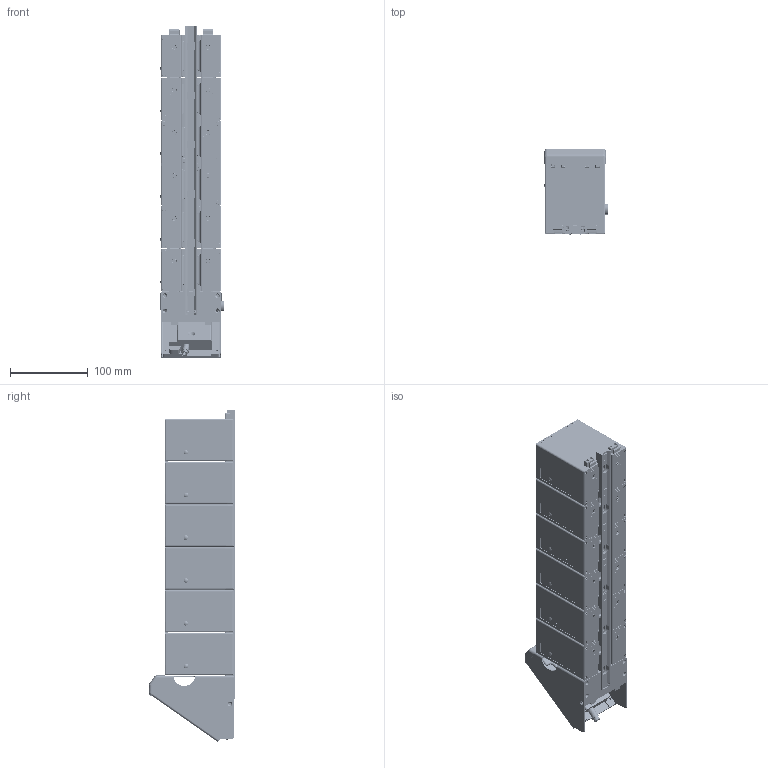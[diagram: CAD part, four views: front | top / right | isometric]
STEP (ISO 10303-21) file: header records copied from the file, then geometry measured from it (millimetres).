
FILE_DESCRIPTION (( 'STEP AP214' ), '1' );
FILE_NAME ('LGX 6X Baserunner Dock.STEP', '2025-11-04T00:39:49', ( '' ), ( '' ), 'SwSTEP 2.0', 'SolidWorks 2021', '' );
FILE_SCHEMA (( 'AUTOMOTIVE_DESIGN' ));
Length unit declared in the file: millimetre
Products named in the file (23): LGX-Encl_Extrusion Profile; LGX-BRshell R1_R2; XT60F; LGX_TLock; LGX 6X Baserunner Dock; V5BRL10_Ref; LXG Single Module_B2 Rear Locked; M3 Screw_M3x18; LGX-Base_InjectionMolded; LG10X-Top_InjectionMolding; M3 Screw_M3x5; LGX-BRSink_Rev1; LXG Single Module_B2 Locked; LGX Cell Assembly; M3 Screw_M3x12; LXG Single Module_B2 Front Locked; ST3 Plug; LGX-BRcap R0; LGX-Latch; LGX-Dock R3_Dock Only; LGX-Ovl; LGX-Rail_Rail x6; XT60M
Assembly tree (94 placements, depth 4):
  LGX 6X Baserunner Dock
    LGX-Rail_Rail x6
    LGX-Dock R3_Dock Only
    XT60F  x2
    LGX-BRshell R1_R2
    LGX-BRSink_Rev1
    V5BRL10_Ref
    LXG Single Module_B2 Front Locked
      LG10X-Top_InjectionMolding
      LGX-Encl_Extrusion Profile
      LGX-Base_InjectionMolded
      LGX Cell Assembly
        XT60F  x2
        XT60M  x2
      LGX-Latch  x2
      LGX-Ovl
      LGX_TLock  x4
      M3 Screw_M3x18  x4
      M3 Screw_M3x5  x2
      M3 Screw_M3x12  x8
    LXG Single Module_B2 Locked  x4
      LG10X-Top_InjectionMolding
      LGX-Encl_Extrusion Profile
      LGX-Base_InjectionMolded
      LGX Cell Assembly
        XT60F  x2
        XT60M  x2
      LGX-Latch
      LGX-Ovl
      LGX_TLock
      M3 Screw_M3x18
      M3 Screw_M3x5
      M3 Screw_M3x12
    LXG Single Module_B2 Rear Locked
      LG10X-Top_InjectionMolding
      LGX-Encl_Extrusion Profile
      LGX-Base_InjectionMolded
      LGX Cell Assembly
        XT60F  x2
        XT60M  x2
      LGX-Latch  x2
      LGX-Ovl
      LGX_TLock  x4
      M3 Screw_M3x18  x4
      M3 Screw_M3x5  x2
      M3 Screw_M3x12  x8
    ST3 Plug
    LGX-BRcap R0
Bounding box: 81.9 x 111.11 x 427.91 mm (x, y, z)
Volume: 687879 mm3; surface area: 673966.7 mm2
Topology: 269 solids, 270 shells, 26375 faces, 64999 edges, 38701 vertices
Faces by surface type: cylinder 9009, plane 6658, bspline 6274, torus 2905, cone 1424, sphere 105
Entity records: 159811 total; most frequent: CARTESIAN_POINT 49147, ORIENTED_EDGE 23230, DIRECTION 21229, EDGE_CURVE 11615, AXIS2_PLACEMENT_3D 8078, VERTEX_POINT 7106, LINE 5073, VECTOR 5073
